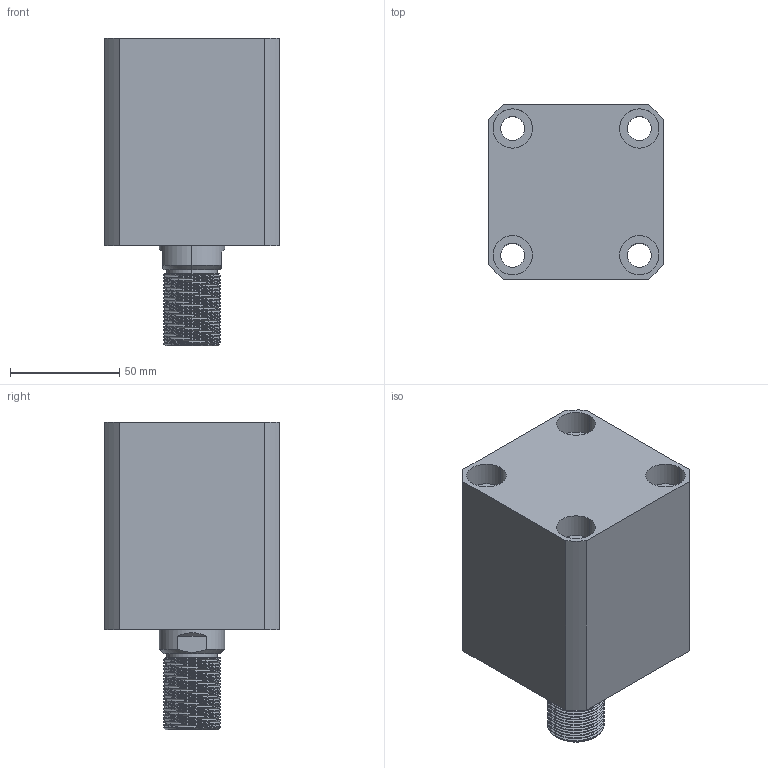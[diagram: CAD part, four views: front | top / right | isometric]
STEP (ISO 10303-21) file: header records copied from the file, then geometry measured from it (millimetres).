
FILE_DESCRIPTION (( 'STEP AP203' ), '1' );
FILE_NAME ('CHTB-SDMA50-35W.STEP', '2018-05-19T01:48:28', ( '' ), ( '' ), 'SwSTEP 2.0', 'SolidWorks 2015', '' );
FILE_SCHEMA (( 'CONFIG_CONTROL_DESIGN' ));
Length unit declared in the file: millimetre
Products named in the file (5): CHTB-SDMA50-35W; M6; CHTM-SDMA50QG; 掛极SDMA50-35W; 活塞杆SDMA50-35W
Assembly tree (5 placements, depth 2):
  CHTB-SDMA50-35W
    掛极SDMA50-35W
    活塞杆SDMA50-35W
    CHTM-SDMA50QG
    M6  x2
Bounding box: 80 x 80 x 141 mm (x, y, z)
Volume: 524771.7 mm3; surface area: 107084 mm2
Topology: 5 solids, 5 shells, 312 faces, 831 edges, 553 vertices
Faces by surface type: cylinder 179, plane 60, cone 29, bspline 28, torus 16
Entity records: 17949 total; most frequent: CARTESIAN_POINT 11067, ORIENTED_EDGE 1468, DIRECTION 1169, EDGE_CURVE 734, VERTEX_POINT 492, AXIS2_PLACEMENT_3D 472, EDGE_LOOP 320, FACE_OUTER_BOUND 277
